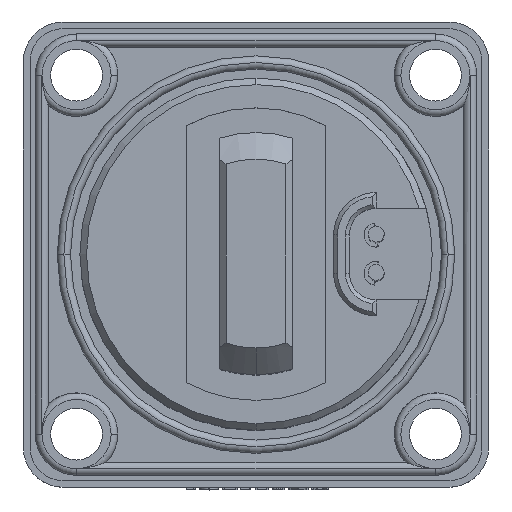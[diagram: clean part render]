
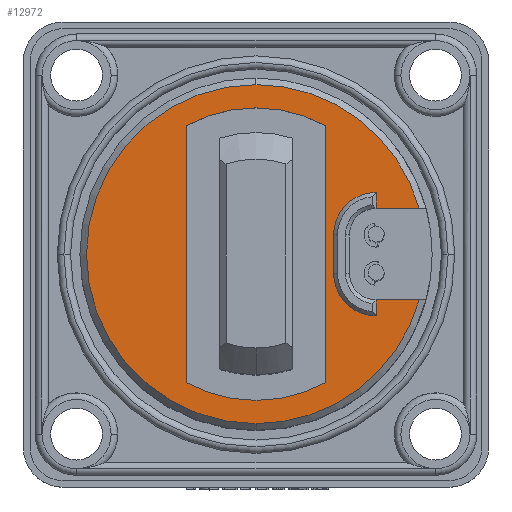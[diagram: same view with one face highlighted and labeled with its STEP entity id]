
A CAD part, top view. The second image highlights one B-rep face of the part: STEP entity #12972.
In plain terms, the highlighted planar face has unit normal (0, 0, 1).
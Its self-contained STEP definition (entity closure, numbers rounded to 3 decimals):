
#87 = CARTESIAN_POINT ( 'NONE',  ( 5.836, -1.439, 20.575 ) ) ;
#215 = VERTEX_POINT ( 'NONE', #15053 ) ;
#421 = EDGE_CURVE ( 'NONE', #12485, #13016, #11638, .T. ) ;
#509 = EDGE_LOOP ( 'NONE', ( #6787, #11127, #13240, #16100, #5595 ) ) ;
#521 = CARTESIAN_POINT ( 'NONE',  ( 5.836, 1.439, 20.575 ) ) ;
#770 = VERTEX_POINT ( 'NONE', #3015 ) ;
#1187 = LINE ( 'NONE', #18702, #10403 ) ;
#1463 = CARTESIAN_POINT ( 'NONE',  ( -4.7, 0., 20.575 ) ) ;
#2006 = DIRECTION ( 'NONE',  ( 0., 0., 1. ) ) ;
#2507 = DIRECTION ( 'NONE',  ( 0., 1., 0. ) ) ;
#2517 = ORIENTED_EDGE ( 'NONE', *, *, #9883, .F. ) ;
#2544 = CIRCLE ( 'NONE', #9028, 11. ) ;
#2760 = DIRECTION ( 'NONE',  ( 0., 0., 1. ) ) ;
#2890 = LINE ( 'NONE', #17888, #18059 ) ;
#2967 = AXIS2_PLACEMENT_3D ( 'NONE', #7863, #6402, #10770 ) ;
#3015 = CARTESIAN_POINT ( 'NONE',  ( 9.036, -4.639, 20.575 ) ) ;
#3028 = ORIENTED_EDGE ( 'NONE', *, *, #11241, .T. ) ;
#3046 = DIRECTION ( 'NONE',  ( -1., 0., 0. ) ) ;
#3300 = CIRCLE ( 'NONE', #8467, 12.75 ) ;
#3361 = EDGE_CURVE ( 'NONE', #8582, #5571, #3300, .T. ) ;
#3449 = VECTOR ( 'NONE', #4240, 1000. ) ;
#3652 = AXIS2_PLACEMENT_3D ( 'NONE', #15582, #6790, #13946 ) ;
#4125 = AXIS2_PLACEMENT_3D ( 'NONE', #4270, #2760, #16116 ) ;
#4239 = ORIENTED_EDGE ( 'NONE', *, *, #15138, .F. ) ;
#4240 = DIRECTION ( 'NONE',  ( 0., -1., 0. ) ) ;
#4270 = CARTESIAN_POINT ( 'NONE',  ( 0., 0., 20.575 ) ) ;
#4392 = DIRECTION ( 'NONE',  ( 0., 0., 1. ) ) ;
#4443 = CARTESIAN_POINT ( 'NONE',  ( 0., 11., 20.575 ) ) ;
#4497 = FACE_BOUND ( 'NONE', #509, .T. ) ;
#4651 = CARTESIAN_POINT ( 'NONE',  ( 5.25, 9.666, 20.575 ) ) ;
#4824 = CIRCLE ( 'NONE', #2967, 3.2 ) ;
#5049 = VERTEX_POINT ( 'NONE', #87 ) ;
#5168 = CARTESIAN_POINT ( 'NONE',  ( -5.25, -9.666, 20.575 ) ) ;
#5488 = CARTESIAN_POINT ( 'NONE',  ( 0., 12.75, 20.575 ) ) ;
#5532 = VERTEX_POINT ( 'NONE', #9447 ) ;
#5571 = VERTEX_POINT ( 'NONE', #7914 ) ;
#5595 = ORIENTED_EDGE ( 'NONE', *, *, #421, .F. ) ;
#5644 = ORIENTED_EDGE ( 'NONE', *, *, #7828, .T. ) ;
#5688 = DIRECTION ( 'NONE',  ( 0., 0., 1. ) ) ;
#5764 = VECTOR ( 'NONE', #3046, 1000. ) ;
#5850 = VERTEX_POINT ( 'NONE', #18696 ) ;
#5902 = VERTEX_POINT ( 'NONE', #17612 ) ;
#6402 = DIRECTION ( 'NONE',  ( 0., 0., 1. ) ) ;
#6497 = VERTEX_POINT ( 'NONE', #11932 ) ;
#6787 = ORIENTED_EDGE ( 'NONE', *, *, #16315, .F. ) ;
#6790 = DIRECTION ( 'NONE',  ( 0., 0., 1. ) ) ;
#6883 = LINE ( 'NONE', #11755, #5764 ) ;
#7029 = ORIENTED_EDGE ( 'NONE', *, *, #16794, .F. ) ;
#7240 = CIRCLE ( 'NONE', #8727, 12.75 ) ;
#7252 = FACE_OUTER_BOUND ( 'NONE', #8081, .T. ) ;
#7324 = DIRECTION ( 'NONE',  ( 0., 1., 0. ) ) ;
#7452 = EDGE_CURVE ( 'NONE', #10861, #6497, #17584, .T. ) ;
#7524 = LINE ( 'NONE', #12280, #10498 ) ;
#7565 = DIRECTION ( 'NONE',  ( 1., 0., 0. ) ) ;
#7685 = DIRECTION ( 'NONE',  ( 0., 1., 0. ) ) ;
#7730 = CIRCLE ( 'NONE', #12827, 11. ) ;
#7828 = EDGE_CURVE ( 'NONE', #5532, #8582, #7240, .T. ) ;
#7854 = DIRECTION ( 'NONE',  ( 0., 0., 1. ) ) ;
#7863 = CARTESIAN_POINT ( 'NONE',  ( 9.036, 1.439, 20.575 ) ) ;
#7893 = DIRECTION ( 'NONE',  ( 0., 1., 0. ) ) ;
#7914 = CARTESIAN_POINT ( 'NONE',  ( 0., -12.75, 20.575 ) ) ;
#8058 = LINE ( 'NONE', #16034, #3449 ) ;
#8081 = EDGE_LOOP ( 'NONE', ( #11584, #4239, #5644, #12554, #3028, #7029, #18739, #9710, #2517, #9574 ) ) ;
#8467 = AXIS2_PLACEMENT_3D ( 'NONE', #9101, #7854, #16473 ) ;
#8582 = VERTEX_POINT ( 'NONE', #5488 ) ;
#8698 = CIRCLE ( 'NONE', #4125, 12.75 ) ;
#8727 = AXIS2_PLACEMENT_3D ( 'NONE', #10237, #4392, #14670 ) ;
#9028 = AXIS2_PLACEMENT_3D ( 'NONE', #14024, #5688, #2507 ) ;
#9101 = CARTESIAN_POINT ( 'NONE',  ( 0., 0., 20.575 ) ) ;
#9447 = CARTESIAN_POINT ( 'NONE',  ( 12.277, 3.439, 20.575 ) ) ;
#9574 = ORIENTED_EDGE ( 'NONE', *, *, #10081, .F. ) ;
#9710 = ORIENTED_EDGE ( 'NONE', *, *, #11206, .F. ) ;
#9883 = EDGE_CURVE ( 'NONE', #10013, #5049, #8058, .T. ) ;
#10013 = VERTEX_POINT ( 'NONE', #521 ) ;
#10018 = AXIS2_PLACEMENT_3D ( 'NONE', #15996, #13123, #18960 ) ;
#10081 = EDGE_CURVE ( 'NONE', #5902, #10013, #4824, .T. ) ;
#10237 = CARTESIAN_POINT ( 'NONE',  ( 0., 0., 20.575 ) ) ;
#10403 = VECTOR ( 'NONE', #14270, 1000. ) ;
#10498 = VECTOR ( 'NONE', #7893, 1000. ) ;
#10555 = CARTESIAN_POINT ( 'NONE',  ( -5.25, 9.666, 20.575 ) ) ;
#10770 = DIRECTION ( 'NONE',  ( 0., 1., 0. ) ) ;
#10861 = VERTEX_POINT ( 'NONE', #10555 ) ;
#11070 = CARTESIAN_POINT ( 'NONE',  ( 9.036, -3.439, 20.575 ) ) ;
#11127 = ORIENTED_EDGE ( 'NONE', *, *, #18064, .F. ) ;
#11206 = EDGE_CURVE ( 'NONE', #5049, #770, #13284, .T. ) ;
#11241 = EDGE_CURVE ( 'NONE', #5571, #13597, #8698, .T. ) ;
#11584 = ORIENTED_EDGE ( 'NONE', *, *, #11791, .F. ) ;
#11638 = CIRCLE ( 'NONE', #3652, 11. ) ;
#11755 = CARTESIAN_POINT ( 'NONE',  ( 9.036, 3.439, 20.575 ) ) ;
#11778 = DIRECTION ( 'NONE',  ( 0., 0., -1. ) ) ;
#11791 = EDGE_CURVE ( 'NONE', #215, #5902, #18050, .T. ) ;
#11932 = CARTESIAN_POINT ( 'NONE',  ( -5.25, -9.666, 20.575 ) ) ;
#11970 = AXIS2_PLACEMENT_3D ( 'NONE', #1463, #11778, #19077 ) ;
#12280 = CARTESIAN_POINT ( 'NONE',  ( 5.25, -9.666, 20.575 ) ) ;
#12485 = VERTEX_POINT ( 'NONE', #4651 ) ;
#12554 = ORIENTED_EDGE ( 'NONE', *, *, #3361, .T. ) ;
#12827 = AXIS2_PLACEMENT_3D ( 'NONE', #18076, #2006, #7685 ) ;
#12839 = EDGE_CURVE ( 'NONE', #770, #14749, #1187, .T. ) ;
#12972 = ADVANCED_FACE ( 'NONE', ( #7252, #4497 ), #14601, .F. ) ;
#13016 = VERTEX_POINT ( 'NONE', #4443 ) ;
#13123 = DIRECTION ( 'NONE',  ( 0., 0., 1. ) ) ;
#13240 = ORIENTED_EDGE ( 'NONE', *, *, #7452, .F. ) ;
#13284 = CIRCLE ( 'NONE', #10018, 3.2 ) ;
#13597 = VERTEX_POINT ( 'NONE', #14680 ) ;
#13946 = DIRECTION ( 'NONE',  ( 0., 1., 0. ) ) ;
#14024 = CARTESIAN_POINT ( 'NONE',  ( 0., 0., 20.575 ) ) ;
#14270 = DIRECTION ( 'NONE',  ( 0., 1., 0. ) ) ;
#14601 = PLANE ( 'NONE',  #11970 ) ;
#14670 = DIRECTION ( 'NONE',  ( 0., -1., 0. ) ) ;
#14680 = CARTESIAN_POINT ( 'NONE',  ( 12.277, -3.439, 20.575 ) ) ;
#14725 = EDGE_CURVE ( 'NONE', #13016, #10861, #2544, .T. ) ;
#14749 = VERTEX_POINT ( 'NONE', #11070 ) ;
#15053 = CARTESIAN_POINT ( 'NONE',  ( 9.036, 3.439, 20.575 ) ) ;
#15138 = EDGE_CURVE ( 'NONE', #5532, #215, #6883, .T. ) ;
#15582 = CARTESIAN_POINT ( 'NONE',  ( 0., 0., 20.575 ) ) ;
#15996 = CARTESIAN_POINT ( 'NONE',  ( 9.036, -1.439, 20.575 ) ) ;
#16034 = CARTESIAN_POINT ( 'NONE',  ( 5.836, 1.439, 20.575 ) ) ;
#16100 = ORIENTED_EDGE ( 'NONE', *, *, #14725, .F. ) ;
#16116 = DIRECTION ( 'NONE',  ( 0., -1., 0. ) ) ;
#16315 = EDGE_CURVE ( 'NONE', #5850, #12485, #7524, .T. ) ;
#16473 = DIRECTION ( 'NONE',  ( 0., -1., 0. ) ) ;
#16669 = VECTOR ( 'NONE', #7324, 1000. ) ;
#16794 = EDGE_CURVE ( 'NONE', #14749, #13597, #2890, .T. ) ;
#17110 = DIRECTION ( 'NONE',  ( 0., -1., 0. ) ) ;
#17584 = LINE ( 'NONE', #5168, #18723 ) ;
#17612 = CARTESIAN_POINT ( 'NONE',  ( 9.036, 4.639, 20.575 ) ) ;
#17888 = CARTESIAN_POINT ( 'NONE',  ( 9.036, -3.439, 20.575 ) ) ;
#18050 = LINE ( 'NONE', #18935, #16669 ) ;
#18059 = VECTOR ( 'NONE', #7565, 1000. ) ;
#18064 = EDGE_CURVE ( 'NONE', #6497, #5850, #7730, .T. ) ;
#18076 = CARTESIAN_POINT ( 'NONE',  ( 0., 0., 20.575 ) ) ;
#18696 = CARTESIAN_POINT ( 'NONE',  ( 5.25, -9.666, 20.575 ) ) ;
#18702 = CARTESIAN_POINT ( 'NONE',  ( 9.036, -4.639, 20.575 ) ) ;
#18723 = VECTOR ( 'NONE', #17110, 1000. ) ;
#18739 = ORIENTED_EDGE ( 'NONE', *, *, #12839, .F. ) ;
#18935 = CARTESIAN_POINT ( 'NONE',  ( 9.036, 3.439, 20.575 ) ) ;
#18960 = DIRECTION ( 'NONE',  ( 0., 1., 0. ) ) ;
#19077 = DIRECTION ( 'NONE',  ( 0., -1., 0. ) ) ;
